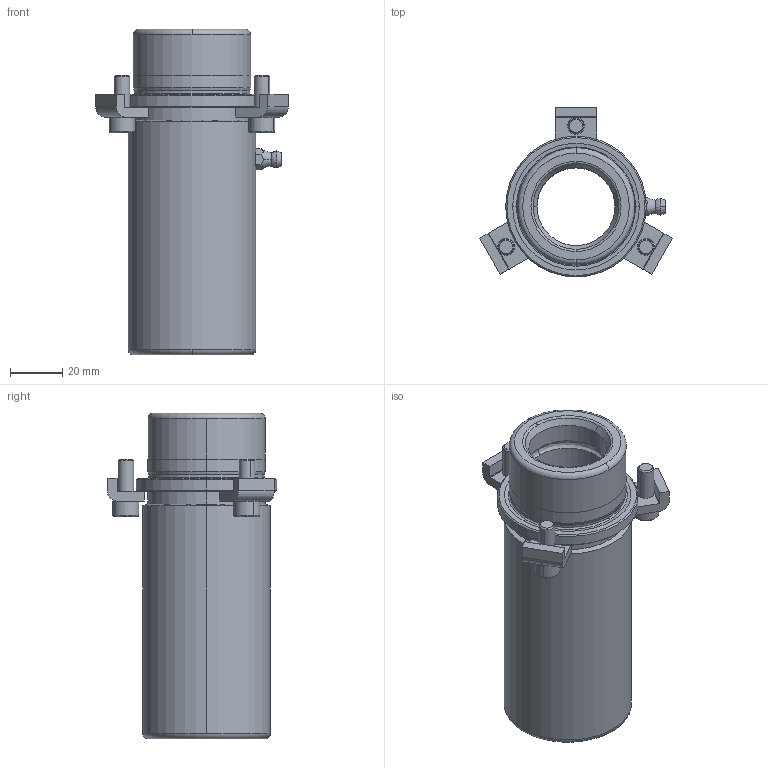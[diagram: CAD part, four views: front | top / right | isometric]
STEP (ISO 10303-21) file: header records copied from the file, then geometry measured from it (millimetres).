
FILE_DESCRIPTION((''),'2;1');
FILE_NAME('B10_030_100.stp','2008-11-06T08:38:08',(''),(''),'Mechanical Desktop 2009','Mechanical Desktop 2009',', , ');
FILE_SCHEMA(('CONFIG_CONTROL_DESIGN'));
Length unit declared in the file: millimetre
Products named in the file (2): Product; blmdl1
Assembly tree (1 placements, depth 2):
  Product
    blmdl1
Bounding box: 74.11 x 65.2 x 125 mm (x, y, z)
Volume: 144493.6 mm3; surface area: 39139.4 mm2
Topology: 8 solids, 8 shells, 170 faces, 445 edges, 292 vertices
Faces by surface type: plane 68, cylinder 48, cone 22, bspline 16, torus 16
Entity records: 6504 total; most frequent: CARTESIAN_POINT 2130, DIRECTION 939, ORIENTED_EDGE 882, EDGE_CURVE 441, AXIS2_PLACEMENT_3D 371, VERTEX_POINT 290, CIRCLE 215, VECTOR 197
